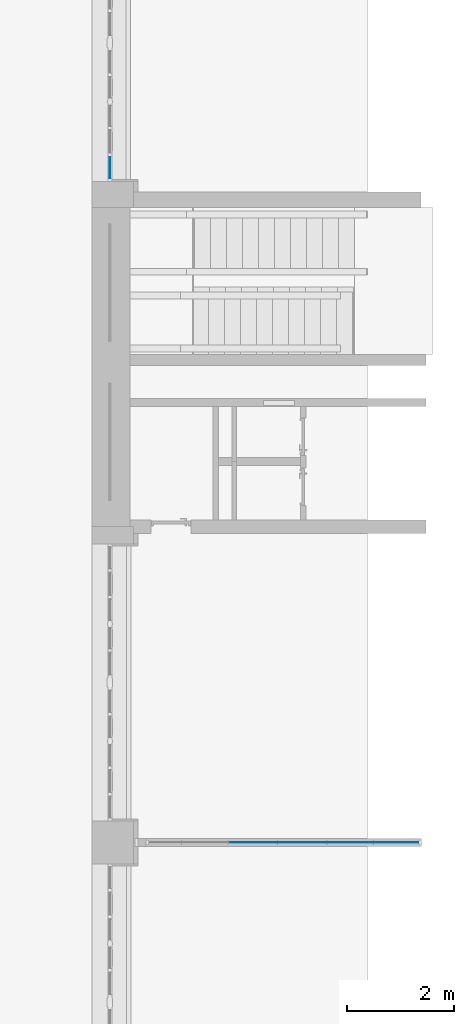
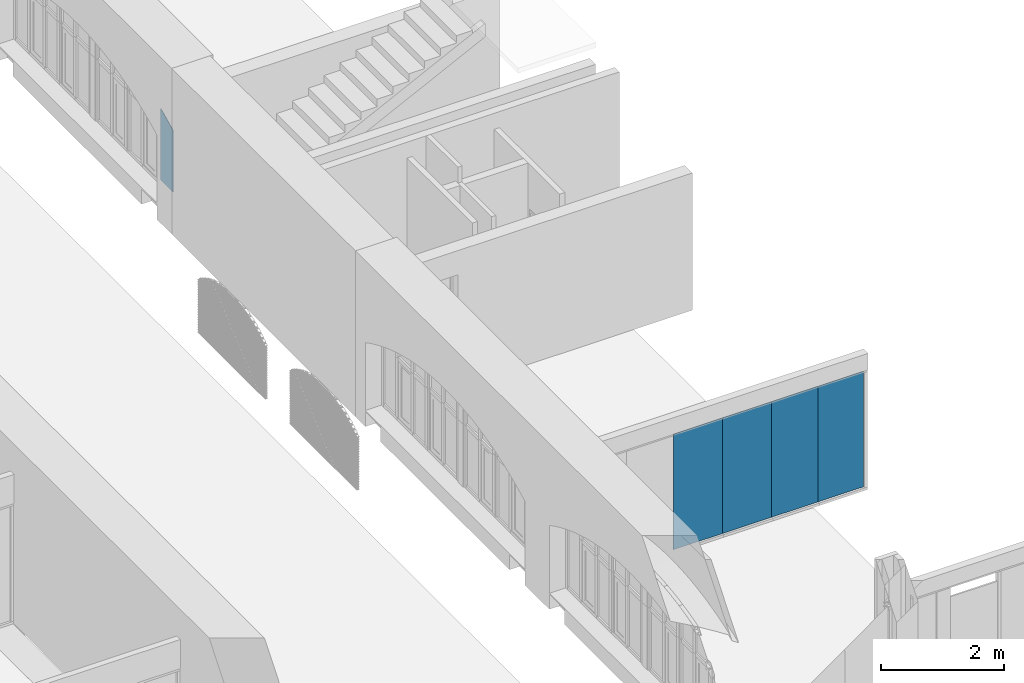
# One storey, part 61 of 88: 5 plates, 2 elements without a shape of their own.
"""IFC2X3 building model written with IfcOpenShell, lengths in millimetres."""

import ifcopenshell
import ifcopenshell.guid

model = None  # the IFC model being written
_history = None  # IfcOwnerHistory: only IFC2X3 demands one
_inside = {}  # id of a spatial element -> (the spatial element, [elements in it])
_under = {}  # id of a project, library or spatial element -> (it, [spatial elements below it])
_declared = {}  # id of a project -> (the project, [libraries it declares])
_typed = {}  # id of a type object -> (the type object, [elements of that type])
_made_of = {}  # id of a material, layer set ... -> (it, [elements and type objects made of it])


def new_model(schema):
    """Start an empty IFC model of exactly this schema.

    Asked for "IFC4X3", IfcOpenShell would pick the latest addendum, in which some entities
    have other attributes; the version numbers below select the first issue.
    IFC2X3 requires an IfcOwnerHistory on every rooted entity: one is made here for all.
    """
    global model, _history
    if schema == "IFC4X3":
        model = ifcopenshell.file(schema_version=(4, 3, 0, 0))
    else:
        model = ifcopenshell.file(schema=schema)
    _inside.clear()
    _under.clear()
    _declared.clear()
    _typed.clear()
    _made_of.clear()
    _history = None
    if model.schema == "IFC2X3":
        org = make("IfcOrganization", Name="unknown")
        user = make(
            "IfcPersonAndOrganization",
            ThePerson=make("IfcPerson", FamilyName="unknown"),
            TheOrganization=org,
        )
        app = make(
            "IfcApplication",
            ApplicationDeveloper=org,
            Version="unknown",
            ApplicationFullName="unknown",
            ApplicationIdentifier="unknown",
        )
        _history = make(
            "IfcOwnerHistory",
            OwningUser=user,
            OwningApplication=app,
            ChangeAction="ADDED",
            CreationDate=0,
        )
    return model


def make(cls, **values):
    """One entity of the class cls with the attributes given. An attribute that is None is left unset."""
    return model.create_entity(
        cls, **{name: value for name, value in values.items() if value is not None}
    )


def entity(cls, *values):
    """Any entity or typed value of the class cls, its attributes in the order of the schema. None: left unset."""
    e = model.create_entity(cls)
    for i, value in enumerate(values):
        if value is not None:
            e[i] = value
    return e


def rooted(cls, **values):
    """An entity with a GlobalId (a new one), such as an element, a storey or a relation."""
    return make(cls, GlobalId=ifcopenshell.guid.new(), OwnerHistory=_history, **values)


def si_unit(unit_type, name, prefix=None):
    """IfcSIUnit, for example si_unit("LENGTHUNIT", "METRE", prefix="MILLI")."""
    return make("IfcSIUnit", UnitType=unit_type, Prefix=prefix, Name=name)


def converted_unit(unit_type, name, factor, base, dimensions=None, offset=None):
    """IfcConversionBasedUnit, such as the inch: factor (a typed value) times the base unit."""
    return make(
        "IfcConversionBasedUnit"
        if offset is None
        else "IfcConversionBasedUnitWithOffset",
        ConversionOffset=offset,
        Dimensions=None
        if dimensions is None
        else entity("IfcDimensionalExponents", *dimensions),
        UnitType=unit_type,
        Name=name,
        ConversionFactor=make(
            "IfcMeasureWithUnit", ValueComponent=factor, UnitComponent=base
        ),
    )


def derived_unit(unit_type, elements):
    """IfcDerivedUnit: a product of units, each with its exponent."""
    return make(
        "IfcDerivedUnit",
        Elements=[
            make("IfcDerivedUnitElement", Unit=unit, Exponent=power)
            for unit, power in elements
        ],
        UnitType=unit_type,
    )


def assignment(units):
    """IfcUnitAssignment: the units of a project."""
    return None if units is None else make("IfcUnitAssignment", Units=units)


def point(xyz):
    """IfcCartesianPoint."""
    return None if xyz is None else make("IfcCartesianPoint", Coordinates=xyz)


def direction(xyz):
    """IfcDirection."""
    return None if xyz is None else make("IfcDirection", DirectionRatios=xyz)


def frame(location, z_axis=None, x_axis=None):
    """IfcAxis2Placement3D, a coordinate frame: its origin and axes. An axis left out is left unset."""
    return make(
        "IfcAxis2Placement3D",
        Location=point(location),
        Axis=direction(z_axis),
        RefDirection=direction(x_axis),
    )


def frame_2d(location, x_axis=None):
    """IfcAxis2Placement2D, a coordinate frame in the plane: its origin and x axis."""
    return make(
        "IfcAxis2Placement2D", Location=point(location), RefDirection=direction(x_axis)
    )


def origin():
    """The frame at (0, 0, 0) with its axes left unset."""
    return frame((0.0, 0.0, 0.0))


def origin_2d_with_axis():
    """The frame at (0, 0) in the plane with the x axis (1, 0) written out."""
    return frame_2d((0.0, 0.0), x_axis=(1.0, 0.0))


def place(relative_to, where):
    """IfcLocalPlacement: puts the frame where relative to a parent placement (None: the world)."""
    return make(
        "IfcLocalPlacement", PlacementRelTo=relative_to, RelativePlacement=where
    )


def context(
    kind, dimensions, precision=None, world=None, true_north=None, identifier=None
):
    """IfcGeometricRepresentationContext, for example the 3D "Model" context."""
    return make(
        "IfcGeometricRepresentationContext",
        ContextIdentifier=identifier,
        ContextType=kind,
        CoordinateSpaceDimension=dimensions,
        Precision=precision,
        WorldCoordinateSystem=world,
        TrueNorth=true_north,
    )


def subcontext(parent, identifier, kind, view, scale=None):
    """IfcGeometricRepresentationSubContext, for example "Body" below "Model"."""
    return make(
        "IfcGeometricRepresentationSubContext",
        ContextIdentifier=identifier,
        ContextType=kind,
        ParentContext=parent,
        TargetScale=scale,
        TargetView=view,
    )


def project(units=None, contexts=None):
    """IfcProject with its units and contexts."""
    return rooted(
        "IfcProject",
        Name="project",
        RepresentationContexts=contexts,
        UnitsInContext=assignment(units),
    )


def spatial(cls, under=None, at=None, **own):
    """A site, building, storey or space (cls), placed at a placement, below another one or the project."""
    s = rooted(cls, ObjectPlacement=at, **own)
    if under is not None:
        _under.setdefault(under.id(), (under, []))[1].append(s)
    return s


def polyline(points):
    """IfcPolyline through the points."""
    return make("IfcPolyline", Points=[point(p) for p in points])


def circle_curve(where, radius):
    """IfcCircle in the frame where."""
    return make("IfcCircle", Position=where, Radius=radius)


def parameter(value):
    """IfcParameterValue: where a trimmed curve begins or ends, as a parameter of its basis curve."""
    return model.create_entity("IfcParameterValue", value)


def trimmed(basis, trim1, trim2, sense, master):
    """IfcTrimmedCurve: the piece of a basis curve between two trims."""
    return make(
        "IfcTrimmedCurve",
        BasisCurve=basis,
        Trim1=trim1,
        Trim2=trim2,
        SenseAgreement=sense,
        MasterRepresentation=master,
    )


def segment(curve, same_sense, transition):
    """IfcCompositeCurveSegment."""
    return make(
        "IfcCompositeCurveSegment",
        Transition=transition,
        SameSense=same_sense,
        ParentCurve=curve,
    )


def composite_curve(segments, self_intersect=None):
    """IfcCompositeCurve: segments joined end to end."""
    return make("IfcCompositeCurve", Segments=segments, SelfIntersect=self_intersect)


def profile(cls, at=None, kind="AREA", **sizes):
    """A parametric profile (cls). Its sizes go by their IFC names, for example OverallWidth=200.0."""
    return make(cls, ProfileType=kind, Position=at, **sizes)


def rectangle(**sizes):
    """IfcRectangleProfileDef."""
    return profile("IfcRectangleProfileDef", **sizes)


def outline(outer, holes=None, kind="AREA"):
    """IfcArbitraryClosedProfileDef: a profile drawn as a closed curve; with holes, ...WithVoids."""
    if holes is None:
        return make("IfcArbitraryClosedProfileDef", ProfileType=kind, OuterCurve=outer)
    return make(
        "IfcArbitraryProfileDefWithVoids",
        ProfileType=kind,
        OuterCurve=outer,
        InnerCurves=holes,
    )


def extrude(swept, where, along, depth):
    """IfcExtrudedAreaSolid: the profile swept, set in the frame where, extruded along a direction by depth."""
    return make(
        "IfcExtrudedAreaSolid",
        SweptArea=swept,
        Position=where,
        ExtrudedDirection=direction(along),
        Depth=depth,
    )


def shape(context_of_items, identifier, shape_type, items):
    """IfcShapeRepresentation: the items that make up one representation, for example the "Body"."""
    return make(
        "IfcShapeRepresentation",
        ContextOfItems=context_of_items,
        RepresentationIdentifier=identifier,
        RepresentationType=shape_type,
        Items=items,
    )


def source(mapping_origin, context_of_items, identifier, shape_type, items):
    """IfcRepresentationMap: a shape defined once, which mapped items show again and again."""
    return make(
        "IfcRepresentationMap",
        MappingOrigin=mapping_origin,
        MappedRepresentation=shape(context_of_items, identifier, shape_type, items),
    )


def transform(
    local_origin,
    x_axis=None,
    y_axis=None,
    z_axis=None,
    scale=None,
    scale2=None,
    scale3=None,
    uniform=True,
):
    """IfcCartesianTransformationOperator3D, or its non-uniform kind. x_axis, y_axis, z_axis: its Axis1, 2, 3."""
    if uniform:
        return make(
            "IfcCartesianTransformationOperator3D",
            Axis1=direction(x_axis),
            Axis2=direction(y_axis),
            LocalOrigin=point(local_origin),
            Scale=scale,
            Axis3=direction(z_axis),
        )
    return make(
        "IfcCartesianTransformationOperator3DnonUniform",
        Axis1=direction(x_axis),
        Axis2=direction(y_axis),
        LocalOrigin=point(local_origin),
        Scale=scale,
        Axis3=direction(z_axis),
        Scale2=scale2,
        Scale3=scale3,
    )


def mapped(mapping_source, mapping_target):
    """IfcMappedItem: shows the shape of a source again, moved by a transform."""
    return make(
        "IfcMappedItem", MappingSource=mapping_source, MappingTarget=mapping_target
    )


def material(Name=None, Category=None):
    """IfcMaterial."""
    return make("IfcMaterial", Name=Name, Category=Category)


def made_of(thing, what):
    """Note that an element or type object is made of a material, layer set ...; save() writes the relation."""
    if what is not None:
        _made_of.setdefault(what.id(), (what, []))[1].append(thing)
    return thing


def type_object(cls, material=None, **own):
    """A type object (cls), such as IfcWallType, which elements share."""
    return made_of(rooted(cls, **own), material)


def type_shapes(of_type, sources):
    """Give a type object the sources (RepresentationMaps) that its elements show as mapped items."""
    of_type.RepresentationMaps = sources


def element(
    cls,
    number,
    at=None,
    inside=None,
    cuts=None,
    type_object=None,
    material=None,
    context=None,
    identifier="Body",
    shape_type=None,
    held_by="IfcProductDefinitionShape",
    body=None,
    shapes=None,
    **own,
):
    """One element of the class cls, such as IfcWall. Its Tag is "e" and its number.

    at: its placement. inside: the storey or other place that contains it. cuts: it is an
    opening in that element (IfcRelVoidsElement). A single representation is given by context,
    identifier, shape_type and body (its items); several are given by shapes. held_by: the class
    of the entity that holds the representations. save() writes the other relations.
    """
    e = rooted(cls, Tag="e%d" % number, ObjectPlacement=at, **own)
    if body is not None:
        shapes = [shape(context, identifier, shape_type, body)]
    if shapes is not None:
        e.Representation = make(held_by, Representations=shapes)
    if inside is not None:
        _inside.setdefault(inside.id(), (inside, []))[1].append(e)
    if cuts is not None:
        rooted(
            "IfcRelVoidsElement", RelatingBuildingElement=cuts, RelatedOpeningElement=e
        )
    if type_object is not None:
        _typed.setdefault(type_object.id(), (type_object, []))[1].append(e)
    return made_of(e, material)


def aggregate(whole, parts):
    """IfcRelAggregates: a whole, such as a stair, and the parts it consists of."""
    return rooted("IfcRelAggregates", RelatingObject=whole, RelatedObjects=parts)


def save(model, path):
    """Write the relations noted so far, then the file.

    IfcRelAggregates (storeys below a building ...), IfcRelContainedInSpatialStructure (elements
    in a storey), IfcRelDefinesByType, IfcRelAssociatesMaterial and IfcRelDeclares: one each for
    every whole, place, type object, material and project.
    """
    for whole, parts in _under.values():
        aggregate(whole, parts)
    for where, things in _inside.values():
        rooted(
            "IfcRelContainedInSpatialStructure",
            RelatedElements=things,
            RelatingStructure=where,
        )
    for kind, things in _typed.values():
        rooted("IfcRelDefinesByType", RelatedObjects=things, RelatingType=kind)
    for what, things in _made_of.values():
        rooted("IfcRelAssociatesMaterial", RelatedObjects=things, RelatingMaterial=what)
    for by, libraries in _declared.values():
        rooted("IfcRelDeclares", RelatingContext=by, RelatedDefinitions=libraries)
    model.write(path)


model = new_model("IFC2X3")

# Units and contexts
model_context = context("Model", 3, precision=0.01, world=origin(), true_north=direction((6.123031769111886e-17, 1.0)))
body_context = subcontext(model_context, "Body", "Model", "MODEL_VIEW")
ifc_project = project(units=[si_unit("LENGTHUNIT", "METRE", prefix="MILLI"), si_unit("AREAUNIT", "SQUARE_METRE"), si_unit("VOLUMEUNIT", "CUBIC_METRE"), converted_unit("PLANEANGLEUNIT", "DEGREE", entity("IfcPlaneAngleMeasure", 0.017453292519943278), si_unit("PLANEANGLEUNIT", "RADIAN"), dimensions=[0, 0, 0, 0, 0, 0, 0]), si_unit("MASSUNIT", "GRAM", prefix="KILO"), derived_unit("MASSDENSITYUNIT", [(si_unit("MASSUNIT", "GRAM", prefix="KILO"), 1), (si_unit("LENGTHUNIT", "METRE"), -3)]), derived_unit("IONCONCENTRATIONUNIT", [(si_unit("MASSUNIT", "GRAM", prefix="KILO"), 1), (si_unit("LENGTHUNIT", "METRE"), -3)]), derived_unit("MOMENTOFINERTIAUNIT", [(si_unit("LENGTHUNIT", "METRE"), 4)]), si_unit("TIMEUNIT", "SECOND"), si_unit("FREQUENCYUNIT", "HERTZ"), si_unit("THERMODYNAMICTEMPERATUREUNIT", "DEGREE_CELSIUS"), derived_unit("THERMALTRANSMITTANCEUNIT", [(si_unit("MASSUNIT", "GRAM", prefix="KILO"), 1), (si_unit("THERMODYNAMICTEMPERATUREUNIT", "KELVIN"), -1), (si_unit("TIMEUNIT", "SECOND"), -3)]), derived_unit("THERMALCONDUCTANCEUNIT", [(si_unit("MASSUNIT", "GRAM", prefix="KILO"), 1), (si_unit("THERMODYNAMICTEMPERATUREUNIT", "KELVIN"), -1), (si_unit("TIMEUNIT", "SECOND"), -3), (si_unit("LENGTHUNIT", "METRE"), 1)]), derived_unit("VOLUMETRICFLOWRATEUNIT", [(si_unit("LENGTHUNIT", "METRE", prefix="DECI"), 3), (si_unit("TIMEUNIT", "SECOND"), -1)]), derived_unit("MASSFLOWRATEUNIT", [(si_unit("MASSUNIT", "GRAM", prefix="KILO"), 1), (si_unit("TIMEUNIT", "SECOND"), -1)]), derived_unit("ROTATIONALFREQUENCYUNIT", [(si_unit("TIMEUNIT", "SECOND"), -1)]), si_unit("ELECTRICCURRENTUNIT", "AMPERE"), si_unit("ELECTRICVOLTAGEUNIT", "VOLT"), si_unit("POWERUNIT", "WATT"), si_unit("FORCEUNIT", "NEWTON", prefix="KILO"), si_unit("ILLUMINANCEUNIT", "LUX"), si_unit("LUMINOUSFLUXUNIT", "LUMEN"), si_unit("LUMINOUSINTENSITYUNIT", "CANDELA"), si_unit("ENERGYUNIT", "JOULE"), derived_unit("USERDEFINED", [(si_unit("MASSUNIT", "GRAM", prefix="KILO"), -1), (si_unit("LENGTHUNIT", "METRE"), -2), (si_unit("TIMEUNIT", "SECOND"), 3), (si_unit("LUMINOUSFLUXUNIT", "LUMEN"), 1)]), derived_unit("USERDEFINED", [(si_unit("MASSUNIT", "GRAM", prefix="KILO"), 1), (si_unit("TIMEUNIT", "SECOND"), -3), (si_unit("LENGTHUNIT", "METRE"), 3), (si_unit("ELECTRICCURRENTUNIT", "AMPERE"), -2)]), derived_unit("SOUNDPOWERUNIT", [(si_unit("MASSUNIT", "GRAM", prefix="KILO"), 1), (si_unit("TIMEUNIT", "SECOND"), -3), (si_unit("LENGTHUNIT", "METRE"), 2)]), derived_unit("SOUNDPRESSUREUNIT", [(si_unit("MASSUNIT", "GRAM", prefix="KILO"), 1), (si_unit("LENGTHUNIT", "METRE"), -1), (si_unit("TIMEUNIT", "SECOND"), -2)]), derived_unit("LINEARVELOCITYUNIT", [(si_unit("LENGTHUNIT", "METRE"), 1), (si_unit("TIMEUNIT", "SECOND"), -1)]), si_unit("PRESSUREUNIT", "PASCAL"), derived_unit("USERDEFINED", [(si_unit("MASSUNIT", "GRAM", prefix="KILO"), 1), (si_unit("LENGTHUNIT", "METRE"), -2), (si_unit("TIMEUNIT", "SECOND"), -2)]), derived_unit("LINEARFORCEUNIT", [(si_unit("MASSUNIT", "GRAM", prefix="KILO"), 1), (si_unit("TIMEUNIT", "SECOND"), -2)]), derived_unit("PLANARFORCEUNIT", [(si_unit("MASSUNIT", "GRAM", prefix="KILO"), 1), (si_unit("LENGTHUNIT", "METRE"), -1), (si_unit("TIMEUNIT", "SECOND"), -2)]), derived_unit("SPECIFICHEATCAPACITYUNIT", [(si_unit("THERMODYNAMICTEMPERATUREUNIT", "KELVIN"), -1), (si_unit("LENGTHUNIT", "METRE"), 2), (si_unit("TIMEUNIT", "SECOND"), -2)]), derived_unit("HEATFLUXDENSITYUNIT", [(si_unit("MASSUNIT", "GRAM", prefix="KILO"), 1), (si_unit("TIMEUNIT", "SECOND"), -3)]), derived_unit("HEATINGVALUEUNIT", [(si_unit("LENGTHUNIT", "METRE"), 2), (si_unit("TIMEUNIT", "SECOND"), -2)]), derived_unit("VAPORPERMEABILITYUNIT", [(si_unit("LENGTHUNIT", "METRE"), -1), (si_unit("TIMEUNIT", "SECOND"), 1)]), derived_unit("DYNAMICVISCOSITYUNIT", [(si_unit("MASSUNIT", "GRAM", prefix="KILO"), 1), (si_unit("TIMEUNIT", "SECOND"), -1), (si_unit("LENGTHUNIT", "METRE"), -1)]), derived_unit("THERMALEXPANSIONCOEFFICIENTUNIT", [(si_unit("THERMODYNAMICTEMPERATUREUNIT", "KELVIN"), -1)]), derived_unit("MODULUSOFELASTICITYUNIT", [(si_unit("MASSUNIT", "GRAM", prefix="KILO"), 1), (si_unit("LENGTHUNIT", "METRE"), -1), (si_unit("TIMEUNIT", "SECOND"), -2)]), derived_unit("ISOTHERMALMOISTURECAPACITYUNIT", [(si_unit("MASSUNIT", "GRAM", prefix="KILO"), -1), (si_unit("LENGTHUNIT", "METRE"), 3)]), derived_unit("MOISTUREDIFFUSIVITYUNIT", [(si_unit("TIMEUNIT", "SECOND"), -1), (si_unit("LENGTHUNIT", "METRE"), 2)]), derived_unit("MASSPERLENGTHUNIT", [(si_unit("MASSUNIT", "GRAM", prefix="KILO"), 1), (si_unit("LENGTHUNIT", "METRE"), -1)]), derived_unit("THERMALRESISTANCEUNIT", [(si_unit("MASSUNIT", "GRAM", prefix="KILO"), -1), (si_unit("TIMEUNIT", "SECOND"), 3), (si_unit("THERMODYNAMICTEMPERATUREUNIT", "KELVIN"), 1)]), derived_unit("ACCELERATIONUNIT", [(si_unit("LENGTHUNIT", "METRE"), 1), (si_unit("TIMEUNIT", "SECOND"), -2)]), derived_unit("ANGULARVELOCITYUNIT", [(si_unit("TIMEUNIT", "SECOND"), -1), (si_unit("PLANEANGLEUNIT", "RADIAN"), 1)]), derived_unit("LINEARSTIFFNESSUNIT", [(si_unit("MASSUNIT", "GRAM", prefix="KILO"), 1), (si_unit("TIMEUNIT", "SECOND"), -2)]), derived_unit("WARPINGCONSTANTUNIT", [(si_unit("LENGTHUNIT", "METRE"), 6)]), derived_unit("LINEARMOMENTUNIT", [(si_unit("MASSUNIT", "GRAM", prefix="KILO"), 1), (si_unit("LENGTHUNIT", "METRE"), 1), (si_unit("TIMEUNIT", "SECOND"), -2)]), derived_unit("TORQUEUNIT", [(si_unit("MASSUNIT", "GRAM", prefix="KILO"), 1), (si_unit("LENGTHUNIT", "METRE"), 2), (si_unit("TIMEUNIT", "SECOND"), -2)])], contexts=[model_context])

# Site, building, storey
site_placement = place(None, origin())
site = spatial("IfcSite", under=ifc_project, at=site_placement, Name="Default", CompositionType="ELEMENT")
building_placement = place(site_placement, origin())
building = spatial("IfcBuilding", under=site, at=building_placement, Name="Eesti Rahvusraamatukogu hoone renoveerimise projekteerimistööd", CompositionType="ELEMENT")
storey_placement = place(building_placement, origin())
storey = spatial("IfcBuildingStorey", under=building, at=storey_placement, Name="1. korrus", CompositionType="ELEMENT", Elevation=0.0)

# Curtain wall, plates
curtain_wall_type_1 = type_object("IfcCurtainWallType", Name="Curtain Wall:VLS Klaasvahesein profiilita 38db", PredefinedType="NOTDEFINED")
curtain_wall_1_placement = place(storey_placement, origin())
curtain_wall_1 = element("IfcCurtainWall", 1, at=curtain_wall_1_placement, inside=storey, type_object=curtain_wall_type_1, Name="Curtain Wall:VLS Klaasvahesein profiilita 38db", ObjectType="Curtain Wall:VLS Klaasvahesein profiilita 38db")
ifc_material_1 = material(Name="EST. Klaas. 1x. E-korpus")
plate_type_1 = type_object("IfcPlateType", Name="System Panel:VLS Klaas KAR/LAM 6+1+6", PredefinedType="CURTAIN_PANEL", material=ifc_material_1)
shared_shape_1 = source(origin(), body_context, "Body", "SweptSolid", [
    extrude(rectangle(XDim=13.000000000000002, YDim=877.5000000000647, at=origin_2d_with_axis()), frame((0.0, 0.0, 0.0), z_axis=(0.0, 0.0, 1.0), x_axis=(0.0, 1.0, 0.0)), (0.0, 0.0, 1.0), 2300.0000000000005),
])
type_shapes(plate_type_1, [shared_shape_1])
plate_1_placement = place(curtain_wall_1_placement, frame((-31931.24999999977, 18390.0, 1700.0)))
plate_1 = element("IfcPlate", 2, at=plate_1_placement, type_object=plate_type_1, material=ifc_material_1, Name="System Panel:VLS Klaas KAR/LAM 6+1+6", ObjectType="System Panel:VLS Klaas KAR/LAM 6+1+6", context=body_context, shape_type="MappedRepresentation", body=[
    mapped(shared_shape_1, transform((0.0, 0.0, 0.0), scale=1.0)),
])
plate_type_2 = type_object("IfcPlateType", Name="System Panel:VLS Klaas KAR/LAM 6+1+6", PredefinedType="CURTAIN_PANEL", material=ifc_material_1)
shared_shape_2 = source(origin(), body_context, "Body", "SweptSolid", [
    extrude(rectangle(XDim=13.000000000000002, YDim=925.0000000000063, at=origin_2d_with_axis()), frame((0.0, 0.0, 0.0), z_axis=(0.0, 0.0, 1.0), x_axis=(0.0, 1.0, 0.0)), (0.0, 0.0, 1.0), 2300.0000000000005),
])
type_shapes(plate_type_2, [shared_shape_2])
plate_2_placement = place(curtain_wall_1_placement, frame((-33757.49999999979, 18390.0, 1700.0)))
plate_2 = element("IfcPlate", 3, at=plate_2_placement, type_object=plate_type_2, material=ifc_material_1, Name="System Panel:VLS Klaas KAR/LAM 6+1+6", ObjectType="System Panel:VLS Klaas KAR/LAM 6+1+6", context=body_context, shape_type="MappedRepresentation", body=[
    mapped(shared_shape_2, transform((0.0, 0.0, 0.0), scale=1.0)),
])
plate_3_placement = place(curtain_wall_1_placement, frame((-32832.49999999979, 18390.0, 1700.0)))
plate_3 = element("IfcPlate", 4, at=plate_3_placement, type_object=plate_type_2, material=ifc_material_1, Name="System Panel:VLS Klaas KAR/LAM 6+1+6", ObjectType="System Panel:VLS Klaas KAR/LAM 6+1+6", context=body_context, shape_type="MappedRepresentation", body=[
    mapped(shared_shape_2, transform((0.0, 0.0, 0.0), scale=1.0)),
])
plate_type_3 = type_object("IfcPlateType", Name="System Panel:VLS Klaas KAR/LAM 6+1+6", PredefinedType="CURTAIN_PANEL", material=ifc_material_1)
shared_shape_3 = source(origin(), body_context, "Body", "SweptSolid", [
    extrude(rectangle(XDim=13.000000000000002, YDim=852.5000000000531, at=origin_2d_with_axis()), frame((0.0, 0.0, 0.0), z_axis=(0.0, 0.0, 1.0), x_axis=(0.0, 1.0, 0.0)), (0.0, 0.0, 1.0), 2300.0000000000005),
])
type_shapes(plate_type_3, [shared_shape_3])
plate_4_placement = place(curtain_wall_1_placement, frame((-31066.249999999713, 18390.0, 1700.0)))
plate_4 = element("IfcPlate", 5, at=plate_4_placement, type_object=plate_type_3, material=ifc_material_1, Name="System Panel:VLS Klaas KAR/LAM 6+1+6", ObjectType="System Panel:VLS Klaas KAR/LAM 6+1+6", context=body_context, shape_type="MappedRepresentation", body=[
    mapped(shared_shape_3, transform((0.0, 0.0, 0.0), scale=1.0)),
])
aggregate(curtain_wall_1, [plate_2, plate_3, plate_1, plate_4])

# Curtain wall, plate
curtain_wall_type_2 = type_object("IfcCurtainWallType", Name="Curtain Wall:Ak-02", PredefinedType="NOTDEFINED")
curtain_wall_2_placement = place(storey_placement, origin())
curtain_wall_2 = element("IfcCurtainWall", 6, at=curtain_wall_2_placement, inside=storey, type_object=curtain_wall_type_2, Name="Curtain Wall:Ak-02", ObjectType="Curtain Wall:Ak-02")
ifc_material_2 = material(Name="EST. Klaas. 3x. Default")
plate_type_4 = type_object("IfcPlateType", Name="System Panel:Peegelaknad 6-16-4-16-4, paneel", PredefinedType="CURTAIN_PANEL", material=ifc_material_2)
shared_shape_4 = source(origin(), body_context, "Body", "SweptSolid", [
    extrude(outline(composite_curve([segment(polyline([(-838.8855000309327, 200.0), (-838.8855000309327, -200.0)]), True, "CONTINUOUS"), segment(polyline([(-838.8855000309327, -200.0), (351.11449996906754, -200.0)]), True, "CONTINUOUS"), segment(polyline([(351.11449996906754, -200.0), (392.39316487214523, -200.0)]), True, "CONTINUOUS"), segment(trimmed(circle_curve(frame_2d((-4419.029401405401, 2340.0), x_axis=(0.8821580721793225, -0.4709534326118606)), 5440.715680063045), [parameter(0.2661645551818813)], [parameter(4.934304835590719)], True, "PARAMETER"), True, "CONTINUOUS"), segment(polyline([(583.1488352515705, 200.0), (351.11449996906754, 200.0)]), True, "CONTINUOUS"), segment(polyline([(351.11449996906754, 200.0), (-838.8855000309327, 200.0)]), True, "CONTINUOUS")], self_intersect=False)), frame((0.0, -5.0, 838.8855000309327), z_axis=(0.0, -1.0, 0.0), x_axis=(0.0, 0.0, 1.0)), (0.0, 0.0, -1.0), 10.0),
])
type_shapes(plate_type_4, [shared_shape_4])
plate_5_placement = place(curtain_wall_2_placement, frame((-36440.0, 31050.0, 2040.0), z_axis=(0.0, 0.0, 1.0), x_axis=(0.0, -1.0, 0.0)))
plate_5 = element("IfcPlate", 7, at=plate_5_placement, type_object=plate_type_4, material=ifc_material_2, Name="System Panel:Peegelaknad 6-16-4-16-4, paneel", ObjectType="System Panel:Peegelaknad 6-16-4-16-4, paneel", context=body_context, shape_type="MappedRepresentation", body=[
    mapped(shared_shape_4, transform((0.0, 0.0, 0.0), scale=1.0)),
])
aggregate(curtain_wall_2, [plate_5])

save(model, "model.ifc")
